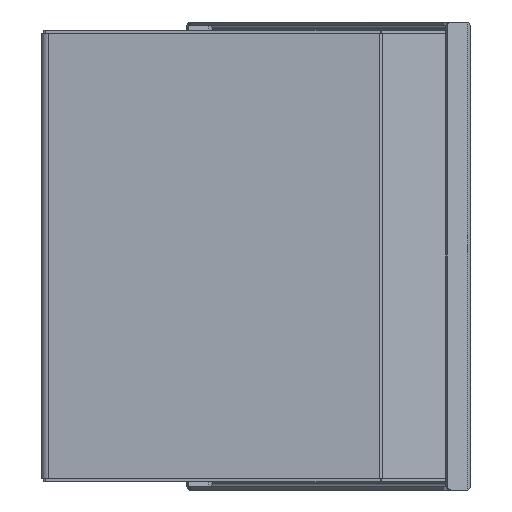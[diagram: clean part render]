
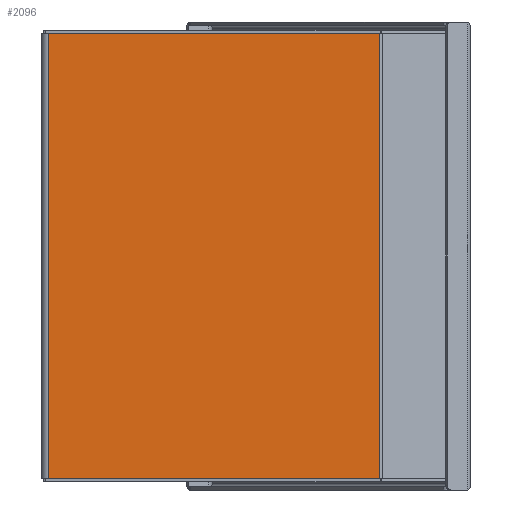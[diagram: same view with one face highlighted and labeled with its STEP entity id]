
A CAD part, left-side view. The second image highlights one B-rep face of the part: STEP entity #2096.
In plain terms, the highlighted planar face has unit normal (-1, 0, 0).
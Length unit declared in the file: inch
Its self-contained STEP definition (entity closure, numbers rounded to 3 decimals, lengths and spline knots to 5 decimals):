
#16=DIRECTION('',(0.,0.,1.));
#17=VECTOR('',#16,8.38);
#18=CARTESIAN_POINT('',(-4.365,2.3803,-4.19));
#19=LINE('',#18,#17);
#47=DIRECTION('',(0.,-1.,0.));
#48=VECTOR('',#47,6.23966);
#49=CARTESIAN_POINT('',(-4.365,2.3803,-4.19));
#50=LINE('',#49,#48);
#585=DIRECTION('',(0.,0.,-1.));
#586=VECTOR('',#585,8.38);
#587=CARTESIAN_POINT('',(-4.365,-3.85936,4.19));
#588=LINE('',#587,#586);
#607=DIRECTION('',(0.,1.,0.));
#608=VECTOR('',#607,6.23966);
#609=CARTESIAN_POINT('',(-4.365,-3.85936,4.19));
#610=LINE('',#609,#608);
#2069=CARTESIAN_POINT('',(-4.365,-3.85936,4.19));
#2070=CARTESIAN_POINT('',(-4.365,2.3803,4.19));
#2071=VERTEX_POINT('',#2069);
#2072=VERTEX_POINT('',#2070);
#2077=CARTESIAN_POINT('',(-4.365,2.3803,-4.19));
#2078=CARTESIAN_POINT('',(-4.365,-3.85936,-4.19));
#2079=VERTEX_POINT('',#2077);
#2080=VERTEX_POINT('',#2078);
#2081=CARTESIAN_POINT('',(-4.365,2.5003,-4.25));
#2082=DIRECTION('',(-1.,0.,0.));
#2083=DIRECTION('',(0.,-1.,0.));
#2084=AXIS2_PLACEMENT_3D('',#2081,#2082,#2083);
#2085=PLANE('',#2084);
#2087=ORIENTED_EDGE('',*,*,#2086,.T.);
#2089=ORIENTED_EDGE('',*,*,#2088,.F.);
#2091=ORIENTED_EDGE('',*,*,#2090,.T.);
#2093=ORIENTED_EDGE('',*,*,#2092,.F.);
#2094=EDGE_LOOP('',(#2087,#2089,#2091,#2093));
#2095=FACE_OUTER_BOUND('',#2094,.F.);
#2086=EDGE_CURVE('',#2079,#2072,#19,.T.);
#2088=EDGE_CURVE('',#2071,#2072,#610,.T.);
#2090=EDGE_CURVE('',#2071,#2080,#588,.T.);
#2092=EDGE_CURVE('',#2079,#2080,#50,.T.);
#2096=ADVANCED_FACE('',(#2095),#2085,.T.);
